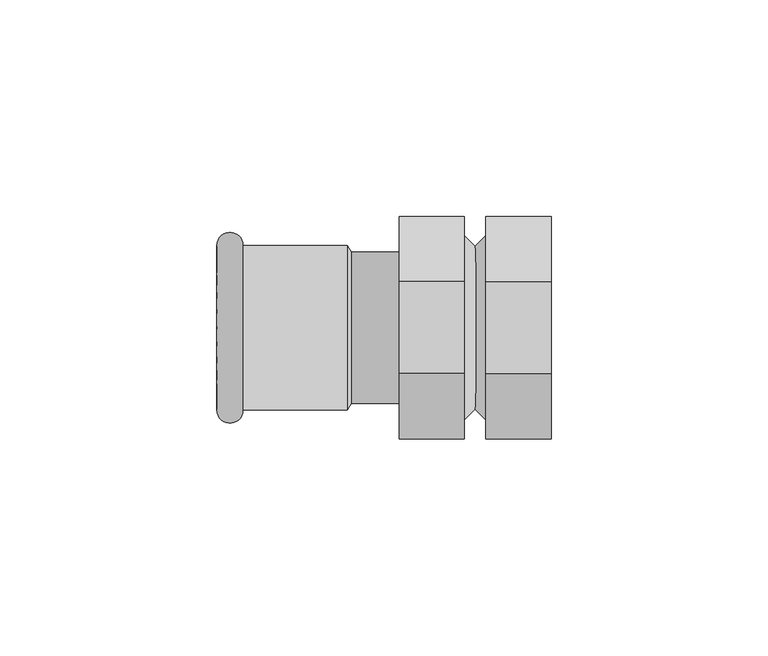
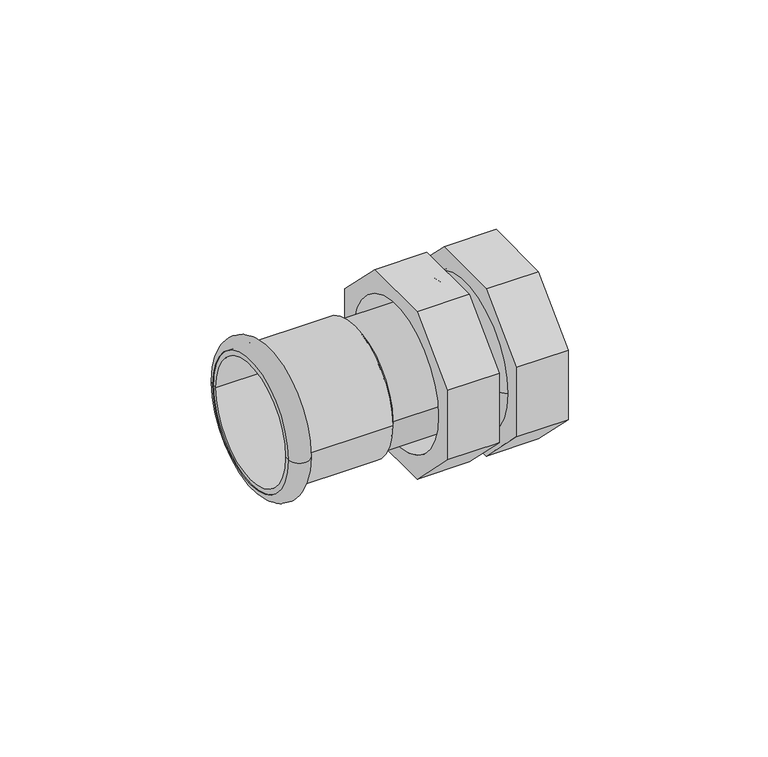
"""IFC4 building model written with IfcOpenShell, lengths in millimetres: pipe fitting geometry."""

from ifc_helpers import new_model, si_unit, point, frame, origin, origin_2d, place, context, project, spatial, polyline, circle_curve, ellipse_curve, trimmed, segment, composite_curve, outline, extrude, source, transform, mapped, element, save
from ifc_brep_helpers import plane_surface, cylinder_surface, revolved_surface, advanced_brep


def pipe_fitting_1b7e7cd5(model_context):
    return source(origin(), model_context, "Body", "SolidModel", [
        advanced_brep(
        [(1.3333333, -25.5906638, 10.6), (1.3333333, -10.6, 25.5906638), (1.3333333, 10.6, 25.5906638), (1.3333333, 25.5906638, 10.6), (1.3333333, 25.5906638, -10.6), (1.3333333, 10.6, -25.5906638), (1.3333333, -10.6, -25.5906638), (1.3333333, -25.5906638, -10.6), (1.3333333, 21.2, 0.0), (1.3333333, -21.2, 0.0), (16.3333333, -25.5906638, 10.6), (16.3333333, -25.5906638, -10.6), (16.3333333, -10.6, -25.5906638), (16.3333333, 10.6, -25.5906638), (16.3333333, 25.5906638, -10.6), (16.3333333, 25.5906638, 10.6), (16.3333333, 10.6, 25.5906638), (16.3333333, -10.6, 25.5906638), (16.3333333, 21.2288231, 0.0), (16.3333333, -21.2288231, 0.0), (16.3333333, 21.2, 0.0), (16.3333333, -21.2, 0.0), (16.3333333, 18.2288231, 0.0), (16.3333333, -18.2288231, 0.0), (19.3333333, 18.2288231, 0.0), (19.3333333, -18.2288231, 0.0)],
        [
            (0, 1),
            (1, 2),
            (2, 3),
            (3, 4),
            (4, 5),
            (5, 6),
            (6, 7),
            (7, 0),
            (8, 9, circle_curve(frame((1.3333333, 0.0, 0.0), z_axis=(1.0, 0.0, 0.0), x_axis=(0.0, -1.0, 0.0)), 21.2)),
            (9, 8, circle_curve(frame((1.3333333, 0.0, 0.0), z_axis=(1.0, 0.0, 0.0), x_axis=(0.0, -1.0, 0.0)), 21.2)),
            (10, 11),
            (11, 12),
            (12, 13),
            (13, 14),
            (14, 15),
            (15, 16),
            (16, 17),
            (17, 10),
            (18, 19, circle_curve(frame((16.3333333, 0.0, 0.0), z_axis=(-1.0, 0.0, 0.0), x_axis=(0.0, -1.0, 0.0)), 21.2288231)),
            (19, 18, circle_curve(frame((16.3333333, 0.0, 0.0), z_axis=(-1.0, 0.0, 0.0), x_axis=(0.0, 1.0, 0.0)), 21.2288231)),
            (8, 20),
            (20, 21, circle_curve(frame((16.3333333, 0.0, 0.0), z_axis=(1.0, 0.0, 0.0), x_axis=(0.0, -1.0, 0.0)), 21.2)),
            (21, 9),
            (21, 20, circle_curve(frame((16.3333333, 0.0, 0.0), z_axis=(1.0, 0.0, 0.0), x_axis=(0.0, -1.0, 0.0)), 21.2)),
            (0, 10),
            (17, 1),
            (16, 2),
            (15, 3),
            (14, 4),
            (13, 5),
            (12, 6),
            (11, 7),
            (22, 23, circle_curve(frame((16.3333333, 0.0, 0.0), z_axis=(1.0, 0.0, 0.0), x_axis=(0.0, 1.0, 0.0)), 18.2288231)),
            (23, 22, circle_curve(frame((16.3333333, 0.0, 0.0), z_axis=(1.0, 0.0, 0.0), x_axis=(0.0, -1.0, 0.0)), 18.2288231)),
            (24, 25, circle_curve(frame((19.3333333, 0.0, 0.0), z_axis=(-1.0, 0.0, 0.0), x_axis=(0.0, -1.0, 0.0)), 18.2288231)),
            (25, 19),
            (18, 24),
            (23, 25),
            (24, 22),
            (25, 24, circle_curve(frame((19.3333333, 0.0, 0.0), z_axis=(-1.0, 0.0, 0.0), x_axis=(0.0, 1.0, 0.0)), 18.2288231)),
        ],
        [
            plane_surface(frame((1.3333333, -21.2, 0.0), z_axis=(-1.0, 0.0, 0.0), x_axis=(0.0, 0.0, -1.0))),
            plane_surface(frame((16.3333333, -21.2, 0.0), z_axis=(1.0, 0.0, 0.0), x_axis=(0.0, 0.0, 1.0))),
            revolved_surface(polyline([(16.3333333, -21.2, 0.0), (1.3333332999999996, -21.2, 0.0)]), (16.3333333, 0.0, 0.0), (1.0, 0.0, 0.0)),
            plane_surface(frame((1.3333333, -25.5906638, 10.6), z_axis=(0.0, -0.7071067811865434, 0.7071067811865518), x_axis=(1.0, 0.0, 0.0))),
            plane_surface(frame((1.3333333, -10.6, 25.5906638), z_axis=(0.0, 0.0, 1.0), x_axis=(1.0, 0.0, 0.0))),
            plane_surface(frame((1.3333333, 10.6, 25.5906638), z_axis=(0.0, 0.7071067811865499, 0.7071067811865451), x_axis=(1.0, 0.0, 0.0))),
            plane_surface(frame((1.3333333, 25.5906638, 10.6), z_axis=(0.0, 1.0, 0.0), x_axis=(1.0, 0.0, 0.0))),
            plane_surface(frame((1.3333333, 25.5906638, -10.6), z_axis=(0.0, 0.7071067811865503, -0.7071067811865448), x_axis=(1.0, 0.0, 0.0))),
            plane_surface(frame((1.3333333, 10.6, -25.5906638), z_axis=(0.0, 0.0, -1.0), x_axis=(1.0, 0.0, 0.0))),
            plane_surface(frame((1.3333333, -10.6, -25.5906638), z_axis=(0.0, -0.7071067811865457, -0.7071067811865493), x_axis=(1.0, 0.0, 0.0))),
            plane_surface(frame((1.3333333, -25.5906638, -10.6), z_axis=(0.0, -1.0, 0.0), x_axis=(1.0, 0.0, 0.0))),
            plane_surface(frame((16.3333333, 0.0, 0.0), z_axis=(-1.0, 0.0, 0.0), x_axis=(0.0, 1.0, 0.0))),
            revolved_surface(polyline([(16.3333333, -21.2288231, 0.0), (19.3333333, -18.2288231, 0.0)]), (16.3333333, 0.0, 0.0), (1.0, 0.0, 0.0)),
            revolved_surface(polyline([(19.3333333, -18.2288231, 0.0), (16.3333333, -18.2288231, 0.0)]), (16.3333333, 0.0, 0.0), (1.0, 0.0, 0.0)),
            revolved_surface(polyline([(16.3333333, 21.2288231, 0.0), (19.3333333, 18.2288231, 0.0)]), (16.3333333, 0.0, 0.0), (1.0, 0.0, 0.0)),
            revolved_surface(polyline([(19.3333333, 18.2288231, 0.0), (16.3333333, 18.2288231, 0.0)]), (16.3333333, 0.0, 0.0), (1.0, 0.0, 0.0)),
        ],
        [
            (0, [[1, 2, 3, 4, 5, 6, 7, 8], [9, 10]]),
            (1, [[11, 12, 13, 14, 15, 16, 17, 18], [19, 20]]),
            (2, [[-9, 21, 22, 23]]),
            (2, [[-10, -23, 24, -21]]),
            (3, [[-1, 25, -18, 26]]),
            (4, [[-2, -26, -17, 27]]),
            (5, [[-3, -27, -16, 28]]),
            (6, [[-4, -28, -15, 29]]),
            (7, [[-5, -29, -14, 30]]),
            (8, [[-6, -30, -13, 31]]),
            (9, [[-7, -31, -12, 32]]),
            (10, [[-8, -32, -11, -25]]),
            (11, [[-22, -24], [33, 34]]),
            (12, [[35, 36, -19, 37]]),
            (13, [[-34, 38, -35, 39]]),
            (14, [[-36, 40, -37, -20]]),
            (15, [[-33, -39, -40, -38]]),
        ],
    ),
        advanced_brep(
        [(36.3333333, 25.5906638, 10.6), (36.3333333, 10.6, 25.5906638), (36.3333333, -10.6, 25.5906638), (36.3333333, -25.5906638, 10.6), (36.3333333, -25.5906638, -10.6), (36.3333333, -10.6, -25.5906638), (36.3333333, 10.6, -25.5906638), (36.3333333, 25.5906638, -10.6), (36.3333333, -21.2, 0.0), (36.3333333, 21.2, 0.0), (21.3333333, 25.5906638, 10.6), (21.3333333, 25.5906638, -10.6), (21.3333333, 10.6, -25.5906638), (21.3333333, -10.6, -25.5906638), (21.3333333, -25.5906638, -10.6), (21.3333333, -25.5906638, 10.6), (21.3333333, -10.6, 25.5906638), (21.3333333, 10.6, 25.5906638), (21.3333333, -21.2288231, 0.0), (21.3333333, 21.2288231, 0.0), (21.3333333, -21.2, 0.0), (21.3333333, 21.2, 0.0), (21.3333333, -18.2288231, 0.0), (21.3333333, 18.2288231, 0.0), (18.3333333, -18.2288231, 0.0), (18.3333333, 18.2288231, 0.0)],
        [
            (0, 1),
            (1, 2),
            (2, 3),
            (3, 4),
            (4, 5),
            (5, 6),
            (6, 7),
            (7, 0),
            (8, 9, circle_curve(frame((36.3333333, 0.0, 0.0), z_axis=(-1.0, 0.0, 0.0), x_axis=(0.0, 1.0, 0.0)), 21.2)),
            (9, 8, circle_curve(frame((36.3333333, 0.0, 0.0), z_axis=(-1.0, 0.0, 0.0), x_axis=(0.0, 1.0, 0.0)), 21.2)),
            (10, 11),
            (11, 12),
            (12, 13),
            (13, 14),
            (14, 15),
            (15, 16),
            (16, 17),
            (17, 10),
            (18, 19, circle_curve(frame((21.3333333, 0.0, 0.0), z_axis=(1.0, 0.0, 0.0), x_axis=(0.0, 1.0, 0.0)), 21.2288231)),
            (19, 18, circle_curve(frame((21.3333333, 0.0, 0.0), z_axis=(1.0, 0.0, 0.0), x_axis=(0.0, -1.0, 0.0)), 21.2288231)),
            (8, 20),
            (20, 21, circle_curve(frame((21.3333333, 0.0, 0.0), z_axis=(-1.0, 0.0, 0.0), x_axis=(0.0, 1.0, 0.0)), 21.2)),
            (21, 9),
            (21, 20, circle_curve(frame((21.3333333, 0.0, 0.0), z_axis=(-1.0, 0.0, 0.0), x_axis=(0.0, 1.0, 0.0)), 21.2)),
            (0, 10),
            (17, 1),
            (16, 2),
            (15, 3),
            (14, 4),
            (13, 5),
            (12, 6),
            (11, 7),
            (22, 23, circle_curve(frame((21.3333333, 0.0, 0.0), z_axis=(-1.0, 0.0, 0.0), x_axis=(0.0, -1.0, 0.0)), 18.2288231)),
            (23, 22, circle_curve(frame((21.3333333, 0.0, 0.0), z_axis=(-1.0, 0.0, 0.0), x_axis=(0.0, 1.0, 0.0)), 18.2288231)),
            (24, 25, circle_curve(frame((18.3333333, 0.0, 0.0), z_axis=(1.0, 0.0, 0.0), x_axis=(0.0, 1.0, 0.0)), 18.2288231)),
            (25, 19),
            (18, 24),
            (23, 25),
            (24, 22),
            (25, 24, circle_curve(frame((18.3333333, 0.0, 0.0), z_axis=(1.0, 0.0, 0.0), x_axis=(0.0, -1.0, 0.0)), 18.2288231)),
        ],
        [
            plane_surface(frame((36.3333333, 21.2, 0.0), z_axis=(1.0, 0.0, 0.0), x_axis=(0.0, 0.0, -1.0))),
            plane_surface(frame((21.3333333, 21.2, 0.0), z_axis=(-1.0, 0.0, 0.0), x_axis=(0.0, 0.0, 1.0))),
            revolved_surface(polyline([(21.3333333, 21.2, 0.0), (36.3333333, 21.2, 0.0)]), (21.3333333, 0.0, 0.0), (-1.0, 0.0, 0.0)),
            plane_surface(frame((36.3333333, 25.5906638, 10.6), z_axis=(0.0, 0.7071067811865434, 0.7071067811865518), x_axis=(-1.0, 0.0, 0.0))),
            plane_surface(frame((36.3333333, 10.6, 25.5906638), z_axis=(0.0, 0.0, 1.0), x_axis=(-1.0, 0.0, 0.0))),
            plane_surface(frame((36.3333333, -10.6, 25.5906638), z_axis=(0.0, -0.7071067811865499, 0.7071067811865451), x_axis=(-1.0, 0.0, 0.0))),
            plane_surface(frame((36.3333333, -25.5906638, 10.6), z_axis=(0.0, -1.0, 0.0), x_axis=(-1.0, 0.0, 0.0))),
            plane_surface(frame((36.3333333, -25.5906638, -10.6), z_axis=(0.0, -0.7071067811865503, -0.7071067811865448), x_axis=(-1.0, 0.0, 0.0))),
            plane_surface(frame((36.3333333, -10.6, -25.5906638), z_axis=(0.0, 0.0, -1.0), x_axis=(-1.0, 0.0, 0.0))),
            plane_surface(frame((36.3333333, 10.6, -25.5906638), z_axis=(0.0, 0.7071067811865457, -0.7071067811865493), x_axis=(-1.0, 0.0, 0.0))),
            plane_surface(frame((36.3333333, 25.5906638, -10.6), z_axis=(0.0, 1.0, 0.0), x_axis=(-1.0, 0.0, 0.0))),
            plane_surface(frame((21.3333333, 0.0, 0.0), z_axis=(1.0, 0.0, 0.0), x_axis=(0.0, -1.0, 0.0))),
            revolved_surface(polyline([(21.3333333, 21.2288231, 0.0), (18.3333333, 18.2288231, 0.0)]), (21.3333333, 0.0, 0.0), (-1.0, 0.0, 0.0)),
            revolved_surface(polyline([(18.3333333, 18.2288231, 0.0), (21.3333333, 18.2288231, 0.0)]), (21.3333333, 0.0, 0.0), (-1.0, 0.0, 0.0)),
            revolved_surface(polyline([(21.3333333, -21.2288231, 0.0), (18.3333333, -18.2288231, 0.0)]), (21.3333333, 0.0, 0.0), (-1.0, 0.0, 0.0)),
            revolved_surface(polyline([(18.3333333, -18.2288231, 0.0), (21.3333333, -18.2288231, 0.0)]), (21.3333333, 0.0, 0.0), (-1.0, 0.0, 0.0)),
        ],
        [
            (0, [[1, 2, 3, 4, 5, 6, 7, 8], [9, 10]]),
            (1, [[11, 12, 13, 14, 15, 16, 17, 18], [19, 20]]),
            (2, [[-9, 21, 22, 23]]),
            (2, [[-10, -23, 24, -21]]),
            (3, [[-1, 25, -18, 26]]),
            (4, [[-2, -26, -17, 27]]),
            (5, [[-3, -27, -16, 28]]),
            (6, [[-4, -28, -15, 29]]),
            (7, [[-5, -29, -14, 30]]),
            (8, [[-6, -30, -13, 31]]),
            (9, [[-7, -31, -12, 32]]),
            (10, [[-8, -32, -11, -25]]),
            (11, [[-22, -24], [33, 34]]),
            (12, [[35, 36, -19, 37]]),
            (13, [[-34, 38, -35, 39]]),
            (14, [[-36, 40, -37, -20]]),
            (15, [[-33, -39, -40, -38]]),
        ],
    ),
        advanced_brep(
        [(-40.6666667, 19.0, 0.0), (-40.6666667, -19.0, 0.0), (-34.665374, -19.0, 0.0), (-34.665374, 19.0, 0.0)],
        [
            (0, 1, circle_curve(frame((-40.6666667, 0.0, 0.0), z_axis=(-1.0, 0.0, 0.0), x_axis=(0.0, -1.0, 0.0)), 19.0)),
            (1, 2),
            (2, 3, circle_curve(frame((-34.665374, 0.0, 0.0), z_axis=(1.0, 0.0, 0.0), x_axis=(0.0, -1.0, 0.0)), 19.0)),
            (3, 0),
            (1, 0, circle_curve(frame((-40.6666667, 0.0, 0.0), z_axis=(-1.0, 0.0, 0.0), x_axis=(0.0, -1.0, 0.0)), 19.0)),
            (3, 2, circle_curve(frame((-34.665374, 0.0, 0.0), z_axis=(1.0, 0.0, 0.0), x_axis=(0.0, -1.0, 0.0)), 19.0)),
            (2, 1, circle_curve(frame((-37.6660203, -19.0, 0.0), z_axis=(0.0, 0.0, -1.0), x_axis=(-1.0, 0.0, 0.0)), 3.0006464)),
            (0, 3, circle_curve(frame((-37.6660203, 19.0, 0.0), z_axis=(0.0, 0.0, -1.0), x_axis=(-1.0, 0.0, 0.0)), 3.0006464)),
        ],
        [
            revolved_surface(polyline([(-34.665374, -19.0, 0.0), (-40.6666667, -19.0, 0.0)]), (-10.6666667, 0.0, 0.0), (1.0, 0.0, 0.0)),
            revolved_surface(trimmed(ellipse_curve(frame((-37.6660203, -19.0, 0.0), z_axis=(0.0, 0.0, 1.0), x_axis=(-1.0, 0.0, 0.0)), 3.0006464, 3.0006464), [point((-40.6666667, -19.0, 0.0))], [point((-34.665374, -19.0, 0.0))], True, "CARTESIAN"), (-10.6666667, 0.0, 0.0), (1.0, 0.0, 0.0)),
        ],
        [
            (0, [[1, 2, 3, 4]]),
            (0, [[5, -4, 6, -2]]),
            (1, [[-3, 7, -1, 8]]),
            (1, [[-6, -8, -5, -7]]),
        ],
    ),
        advanced_brep(
        [(-40.6666667, 17.5, 0.0), (-40.6666667, -17.5, 0.0), (-9.6666667, -17.5, 0.0), (-9.6666667, 17.5, 0.0), (-40.6666667, 19.0, 0.0), (-40.6666667, -19.0, 0.0), (-10.6666667, 19.0, 0.0), (-10.6666667, -19.0, 0.0)],
        [
            (0, 1, circle_curve(frame((-40.6666667, 0.0, 0.0), z_axis=(-1.0, 0.0, 0.0), x_axis=(0.0, -1.0, 0.0)), 17.5)),
            (1, 2),
            (2, 3, circle_curve(frame((-9.6666667, 0.0, 0.0), z_axis=(1.0, 0.0, 0.0), x_axis=(0.0, -1.0, 0.0)), 17.5)),
            (3, 0),
            (1, 0, circle_curve(frame((-40.6666667, 0.0, 0.0), z_axis=(-1.0, 0.0, 0.0), x_axis=(0.0, -1.0, 0.0)), 17.5)),
            (3, 2, circle_curve(frame((-9.6666667, 0.0, 0.0), z_axis=(1.0, 0.0, 0.0), x_axis=(0.0, -1.0, 0.0)), 17.5)),
            (4, 5, circle_curve(frame((-40.6666667, 0.0, 0.0), z_axis=(-1.0, 0.0, 0.0), x_axis=(0.0, -1.0, 0.0)), 19.0)),
            (5, 1),
            (0, 4),
            (5, 4, circle_curve(frame((-40.6666667, 0.0, 0.0), z_axis=(-1.0, 0.0, 0.0), x_axis=(0.0, -1.0, 0.0)), 19.0)),
            (6, 7, circle_curve(frame((-10.6666667, 0.0, 0.0), z_axis=(-1.0, 0.0, 0.0), x_axis=(0.0, -1.0, 0.0)), 19.0)),
            (7, 5),
            (4, 6),
            (7, 6, circle_curve(frame((-10.6666667, 0.0, 0.0), z_axis=(-1.0, 0.0, 0.0), x_axis=(0.0, -1.0, 0.0)), 19.0)),
            (2, 7),
            (6, 3),
        ],
        [
            revolved_surface(polyline([(-9.6666667, -17.5, 0.0), (-40.6666667, -17.5, 0.0)]), (-10.6666667, 0.0, 0.0), (1.0, 0.0, 0.0)),
            plane_surface(frame((-40.6666667, 0.0, 0.0), z_axis=(-1.0, 0.0, 0.0), x_axis=(0.0, -1.0, 0.0))),
            cylinder_surface(frame((-10.6666667, 0.0, 0.0), z_axis=(1.0, 0.0, 0.0), x_axis=(0.0, -1.0, 0.0)), 19.0),
            revolved_surface(polyline([(-10.6666667, -19.0, 0.0), (-9.6666667, -17.5, 0.0)]), (-10.6666667, 0.0, 0.0), (1.0, 0.0, 0.0)),
        ],
        [
            (0, [[1, 2, 3, 4]]),
            (0, [[5, -4, 6, -2]]),
            (1, [[7, 8, -1, 9]]),
            (1, [[10, -9, -5, -8]]),
            (2, [[11, 12, -7, 13]]),
            (2, [[14, -13, -10, -12]]),
            (3, [[-3, 15, -11, 16]]),
            (3, [[-6, -16, -14, -15]]),
        ],
    ),
        extrude(outline(composite_curve([segment(trimmed(circle_curve(origin_2d(), 17.5), [point((-17.5, 0.0))], [point((17.5, 0.0))], False, "CARTESIAN"), True, "CONTINUOUS"), segment(trimmed(circle_curve(origin_2d(), 17.5), [point((17.5, 0.0))], [point((-17.5, 0.0))], False, "CARTESIAN"), True, "CONTINUOUS")], self_intersect=False)), frame((-10.6666667, 0.0, 0.0), z_axis=(1.0, 0.0, 0.0), x_axis=(0.0, 1.0, 0.0)), (0.0, 0.0, 1.0), 32.0),
    ])


if __name__ == "__main__":
    model = new_model("IFC4")
    model_context = context("Model", 3, world=origin())
    ifc_project = project(units=[si_unit("LENGTHUNIT", "METRE", prefix="MILLI")], contexts=[model_context])
    site = spatial("IfcSite", under=ifc_project)
    building = spatial("IfcBuilding", under=site)
    placement = place(None, origin())
    pipe_fitting_shape = pipe_fitting_1b7e7cd5(model_context)
    element("IfcPipeFitting", 1, ObjectType="NLRS_50_PIF_UN_Geberit Mapress Therm 3-d overgangskoppeling met binnendraad_PRO_3208079 : DN12-50-Rp2\" / d15-54-Rp2\" - OD", at=placement, inside=building, context=model_context, shape_type="MappedRepresentation", body=[
        mapped(pipe_fitting_shape, transform((0.0, 0.0, 0.0), x_axis=(1.0, 0.0, 0.0), y_axis=(0.0, 1.0, 0.0), z_axis=(0.0, 0.0, 1.0))),
    ])
    save(model, "model.ifc")
